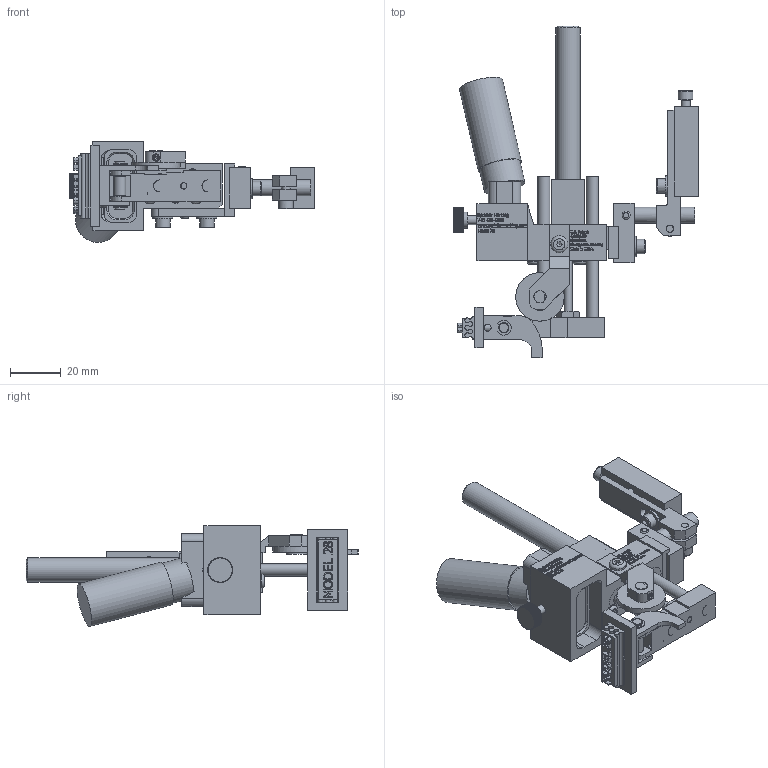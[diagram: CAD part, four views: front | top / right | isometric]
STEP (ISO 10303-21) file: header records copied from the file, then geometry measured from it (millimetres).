
FILE_DESCRIPTION((''),'2;1');
FILE_NAME('C:\Documents and Settings\Ron\My Documents\Inventor\Sprinter Drawing\Machines in Inventor\Model 28\Type\Std\Brkt\90\Model 28 Std Type 90 deg w brkt.stp','2009-01-14T10:24:24',('Ron'),(''),'Autodesk Inventor 2008','Autodesk Inventor 2008','');
FILE_SCHEMA(('AUTOMOTIVE_DESIGN { 1 0 10303 214 1 1 1 1 }'));
Length unit declared in the file: inch
Products named in the file (1): Model 28 Std Type 90 deg w brkt
Bounding box: 95.97 x 130.29 x 39.63 mm (x, y, z)
Volume: 67275.2 mm3; surface area: 37013.4 mm2
Topology: 34 solids, 34 shells, 4139 faces, 11246 edges, 7455 vertices
Faces by surface type: plane 2419, bspline 1346, cylinder 312, cone 48, torus 14
Full cylindrical faces by diameter (mm): 2.337 x1, 2.845 x3, 2.946 x2, 3.048 x1, 3.175 x2, 3.454 x1, 3.505 x7, 3.658 x1, 3.876 x1, 3.962 x8, 3.988 x1, 4.064 x1, 4.648 x2, 4.699 x1, 4.75 x1, 4.763 x2, 4.775 x2, 4.788 x1, 5.41 x2, 5.74 x6, 6.096 x1, 6.325 x2, 6.35 x2, 6.655 x1, 7.239 x1, 7.925 x4, 7.938 x1, 8.128 x1, 9.525 x1, 10.922 x1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
Entity records: 142387 total; most frequent: CARTESIAN_POINT 45982, ORIENTED_EDGE 21978, DIRECTION 14738, EDGE_CURVE 10989, VECTOR 7488, LINE 7488, VERTEX_POINT 7363, EDGE_LOOP 4656
